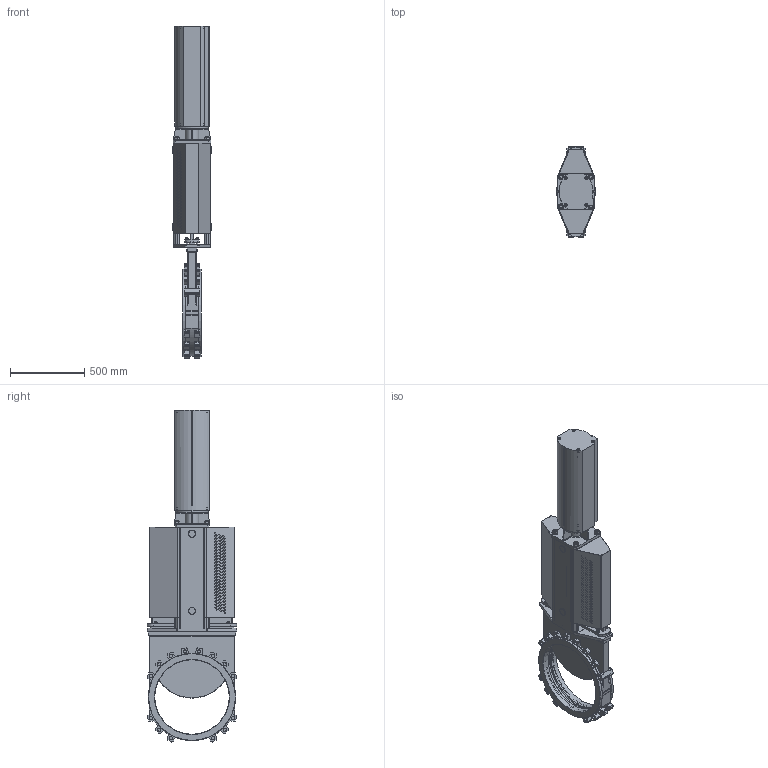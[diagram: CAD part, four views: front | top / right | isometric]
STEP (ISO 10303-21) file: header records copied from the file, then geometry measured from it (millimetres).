
FILE_DESCRIPTION(('STEP AP203'),'1');
FILE_NAME('G:/KONSTRUK/3-d block för CD/XV VALVE/EC/XV-DN500-EC200.stp','2013-01-24T14:57:13',(' '),(' '),'Spatial InterOp 3D',' ',' ');
FILE_SCHEMA(('CONFIG_CONTROL_DESIGN'));
Length unit declared in the file: millimetre
Products named in the file (3): 1; 2; 3
Bounding box: 260 x 604.7 x 2231.05 mm (x, y, z)
Volume: 44236722.5 mm3; surface area: 6641998.7 mm2
Topology: 3 solids, 47 shells, 3210 faces, 8608 edges, 5536 vertices
Faces by surface type: cylinder 1597, plane 1107, cone 368, torus 102, bspline 28, sphere 8
Entity records: 106267 total; most frequent: CARTESIAN_POINT 23393, DIRECTION 18322, ORIENTED_EDGE 17056, EDGE_CURVE 8528, AXIS2_PLACEMENT_3D 7122, VERTEX_POINT 5536, LINE 4078, VECTOR 4078
